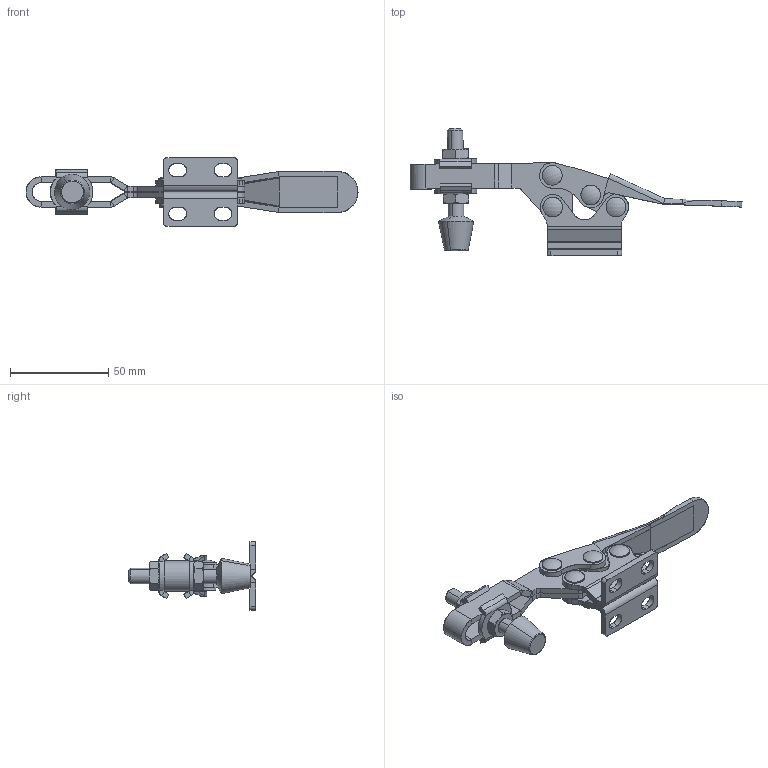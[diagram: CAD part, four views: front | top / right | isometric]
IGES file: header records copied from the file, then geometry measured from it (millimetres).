
Start section: SolidWorks IGES file using analytic representation for surfaces
Global section: file name: \\BARTOP_SV6\share\SOLIDWORKS\工具事業部\坂入用\Toggle clamp\ISK-HH4500\ISK-HH4500.IGS; native system: SolidWorks 2017; preprocessor: SolidWorks 2017; author: SOLID02; date: 161226.152130; units: millimetre
Bounding box: 169.26 x 65.13 x 35 mm (x, y, z)
Surface area: 28843.6 mm2 (no closed solid volume)
Topology: 0 solids, 0 shells, 418 faces, 5593 edges, 5593 vertices
Faces by surface type: bspline 220, revolution 198
